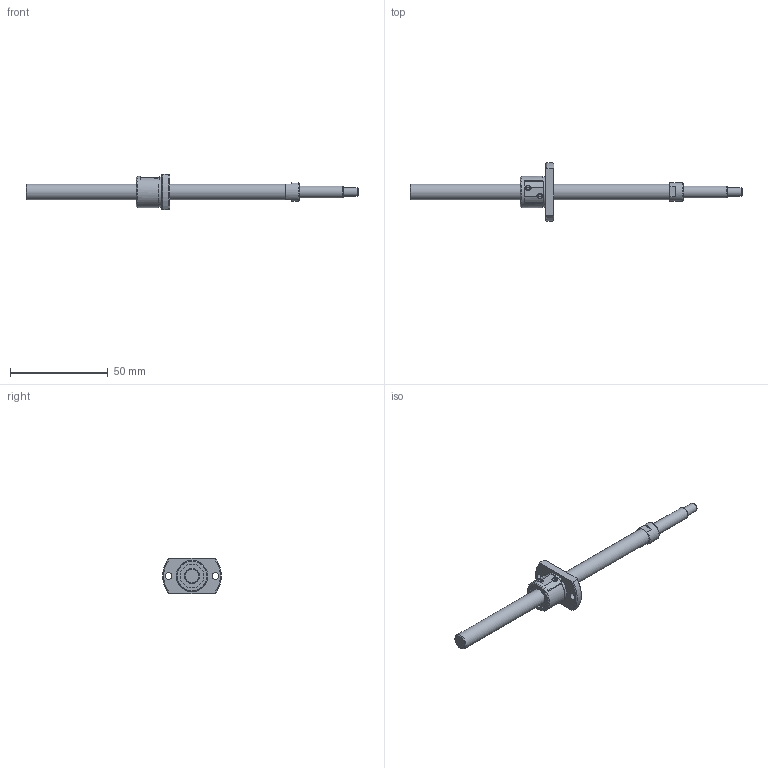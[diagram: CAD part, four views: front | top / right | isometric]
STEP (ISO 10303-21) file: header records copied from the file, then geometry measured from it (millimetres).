
FILE_DESCRIPTION(/* description */ ('STEP AP214'),/* implementation_level */ '2;1');
FILE_NAME(/* name */ 'SG0801-130R170C3A0X(56.5)',/* time_stamp */ '2026-07-21T16:38:25+02:00',/* author */ ('License CC BY-ND 4.0'),/* organization */ ('CADENAS'),/* preprocessor_version */ 'ST-DEVELOPER v20',/* originating_system */ 'PARTsolutions',/* authorisation */ ' ');
FILE_SCHEMA (('AUTOMOTIVE_DESIGN {1 0 10303 214 3 1 1}'));
Length unit declared in the file: millimetre
Products named in the file (3): SG0801-130R170C3A0X(56.5); SG0801-130R170C3A_shaft; SG0801_nut
Assembly tree (2 placements, depth 2):
  SG0801-130R170C3A0X(56.5)
    SG0801-130R170C3A_shaft
    SG0801_nut
Bounding box: 170 x 30 x 18 mm (x, y, z)
Volume: 11404.6 mm3; surface area: 6615 mm2
Topology: 2 solids, 2 shells, 74 faces, 182 edges, 119 vertices
Faces by surface type: plane 35, cylinder 25, cone 13, torus 1
Full cylindrical faces by diameter (mm): 3.4 x2, 4.5 x1, 6 x1, 8 x2, 9.5 x1, 12 x2, 15.6 x1, 16 x1
Entity records: 2123 total; most frequent: CARTESIAN_POINT 405, DIRECTION 354, ORIENTED_EDGE 304, EDGE_CURVE 152, AXIS2_PLACEMENT_3D 147, VERTEX_POINT 110, EDGE_LOOP 108, FACE_BOUND 108
